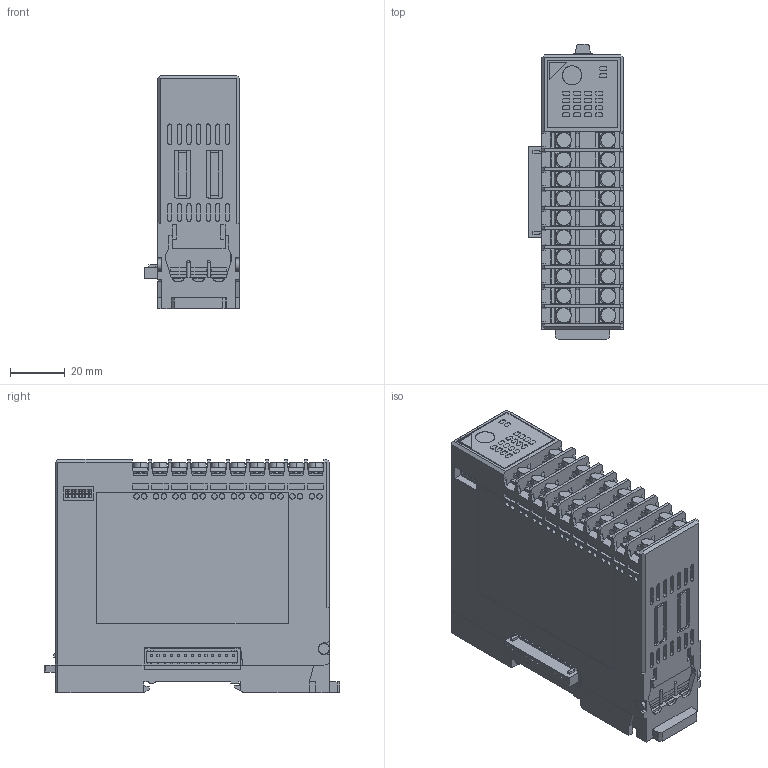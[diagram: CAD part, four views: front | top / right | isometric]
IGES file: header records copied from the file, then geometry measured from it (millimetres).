
Start section: SolidWorks IGES file using analytic representation for surfaces
Global section: file name: 8HD:\KK\CAD_DATA\Q\Q僔儕乕僘\QPM1\D24-019\HP_3D\QPM1-PI16仩0T\AS_QPM1-PI16仩仩T_260616.IGS; native system: SolidWorks 2025; preprocessor: SolidWorks 2025; author: kawahara; date: 260616.154927; units: millimetre
Bounding box: 34.6 x 107.8 x 85.1 mm (x, y, z)
Surface area: 51006.3 mm2 (no closed solid volume)
Topology: 0 solids, 0 shells, 2063 faces, 17960 edges, 17958 vertices
Faces by surface type: bspline 1618, revolution 445
